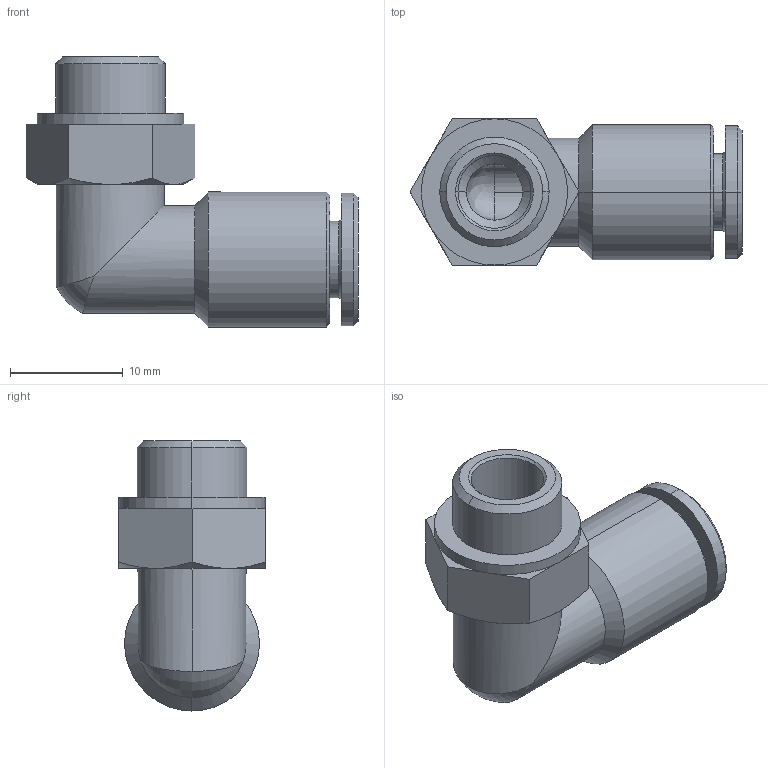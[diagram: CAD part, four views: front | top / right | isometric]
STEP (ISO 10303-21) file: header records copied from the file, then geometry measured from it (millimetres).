
FILE_DESCRIPTION (( 'STEP AP203' ), '1' );
FILE_NAME ('14010030.STEP', '2019-05-29T14:13:23', ( '' ), ( '' ), 'SwSTEP 2.0', 'SolidWorks 2015', '' );
FILE_SCHEMA (( 'CONFIG_CONTROL_DESIGN' ));
Length unit declared in the file: millimetre
Products named in the file (1): 14010030
Bounding box: 29.51 x 13 x 24 mm (x, y, z)
Volume: 2794.3 mm3; surface area: 2494.2 mm2
Topology: 1 solids, 1 shells, 66 faces, 143 edges, 83 vertices
Faces by surface type: cone 23, cylinder 22, plane 19, torus 1, bspline 1
Entity records: 2003 total; most frequent: CARTESIAN_POINT 489, DIRECTION 319, ORIENTED_EDGE 284, EDGE_CURVE 142, AXIS2_PLACEMENT_3D 131, VERTEX_POINT 83, EDGE_LOOP 73, FACE_OUTER_BOUND 66
